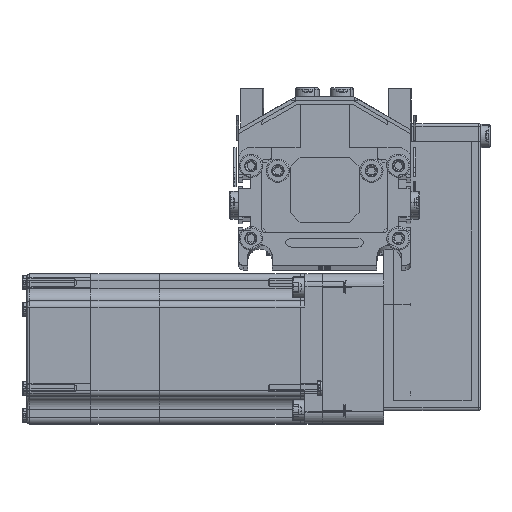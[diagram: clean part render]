
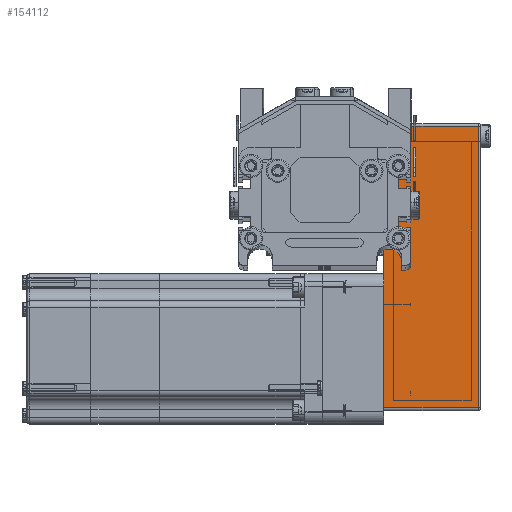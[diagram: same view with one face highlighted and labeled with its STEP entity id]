
A CAD part, top view. The second image highlights one B-rep face of the part: STEP entity #154112.
In plain terms, the highlighted planar face has unit normal (0, 0, 1) as drawn and (0, -1, 0) by its records, which use the part's own axes.
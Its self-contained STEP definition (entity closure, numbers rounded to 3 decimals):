
#3259 = FACE_OUTER_BOUND ( 'NONE', #154156, .T. ) ;
#3274 = CARTESIAN_POINT ( 'NONE',  ( -50., -25., 39.5 ) ) ;
#3307 = DIRECTION ( 'NONE',  ( 0., 0., 1. ) ) ;
#3308 = DIRECTION ( 'NONE',  ( 0., 1., 0. ) ) ;
#3318 = PLANE ( 'NONE',  #3324 ) ;
#3324 = AXIS2_PLACEMENT_3D ( 'NONE', #3274, #3308, #3307 ) ;
#3346 = CARTESIAN_POINT ( 'NONE',  ( 65.5, -25., 38.5 ) ) ;
#91050 = DIRECTION ( 'NONE',  ( -1., 0., 0. ) ) ;
#91051 = VECTOR ( 'NONE', #91050, 1000. ) ;
#91052 = CARTESIAN_POINT ( 'NONE',  ( -50., -25., 38.5 ) ) ;
#91059 = LINE ( 'NONE', #91052, #91051 ) ;
#91075 = DIRECTION ( 'NONE',  ( 0., 0., 1. ) ) ;
#91076 = VECTOR ( 'NONE', #91075, 1000. ) ;
#91080 = DIRECTION ( 'NONE',  ( 0., 0., -1. ) ) ;
#91081 = VECTOR ( 'NONE', #91080, 1000. ) ;
#91083 = CARTESIAN_POINT ( 'NONE',  ( -49., -25., 39.5 ) ) ;
#91085 = LINE ( 'NONE', #91083, #91081 ) ;
#91102 = CARTESIAN_POINT ( 'NONE',  ( 65.5, -25., 39.5 ) ) ;
#91103 = LINE ( 'NONE', #91102, #91076 ) ;
#91111 = CARTESIAN_POINT ( 'NONE',  ( -49., -25., 0. ) ) ;
#91156 = CARTESIAN_POINT ( 'NONE',  ( 65.5, -25., 0. ) ) ;
#91189 = CARTESIAN_POINT ( 'NONE',  ( -49., -25., 38.5 ) ) ;
#127180 = VECTOR ( 'NONE', #127252, 1000. ) ;
#127200 = LINE ( 'NONE', #127253, #127180 ) ;
#127252 = DIRECTION ( 'NONE',  ( 1., 0., 0. ) ) ;
#127253 = CARTESIAN_POINT ( 'NONE',  ( -50., -25., 0. ) ) ;
#153727 = EDGE_CURVE ( 'NONE', #154194, #153822, #91059, .T. ) ;
#153777 = VERTEX_POINT ( 'NONE', #91111 ) ;
#153778 = EDGE_CURVE ( 'NONE', #153822, #153777, #91085, .T. ) ;
#153781 = EDGE_CURVE ( 'NONE', #153830, #154194, #91103, .T. ) ;
#153784 = ORIENTED_EDGE ( 'NONE', *, *, #153781, .T. ) ;
#153791 = ORIENTED_EDGE ( 'NONE', *, *, #153871, .T. ) ;
#153822 = VERTEX_POINT ( 'NONE', #91189 ) ;
#153830 = VERTEX_POINT ( 'NONE', #91156 ) ;
#153871 = EDGE_CURVE ( 'NONE', #153777, #153830, #127200, .T. ) ;
#154112 = ADVANCED_FACE ( 'NONE', ( #3259 ), #3318, .F. ) ;
#154114 = ORIENTED_EDGE ( 'NONE', *, *, #153778, .T. ) ;
#154117 = ORIENTED_EDGE ( 'NONE', *, *, #153727, .T. ) ;
#154156 = EDGE_LOOP ( 'NONE', ( #154117, #154114, #153791, #153784 ) ) ;
#154194 = VERTEX_POINT ( 'NONE', #3346 ) ;
